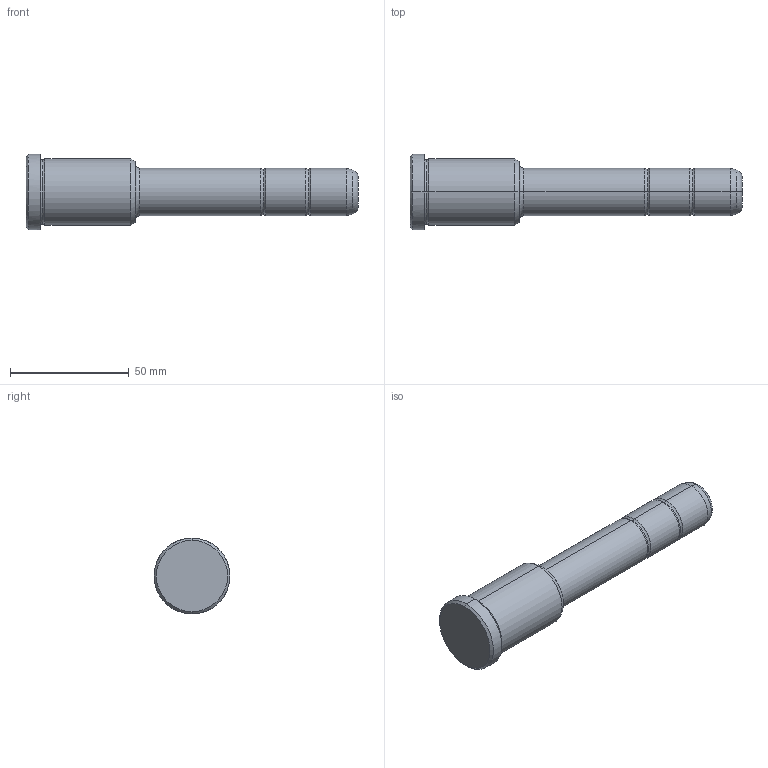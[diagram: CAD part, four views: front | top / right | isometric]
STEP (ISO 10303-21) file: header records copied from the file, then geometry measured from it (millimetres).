
FILE_DESCRIPTION(('CATIA V5 STEP Exchange'),'2;1');
FILE_NAME('C:\Users\Utente\Desktop\IO LAVORO\3D X SITO CF\X SITO\PLASTICA\351\351-20X46X140.stp','2021-08-27T12:54:18+00:00',('none'),('none'),'CATIA Version 5 Release 20 GA (IN-10)','CATIA V5 STEP AP203','none');
FILE_SCHEMA(('CONFIG_CONTROL_DESIGN'));
Length unit declared in the file: millimetre
Products named in the file (1): 351-20X46X140
Bounding box: 140 x 32 x 32 mm (x, y, z)
Volume: 58494.3 mm3; surface area: 11370.6 mm2
Topology: 1 solids, 1 shells, 36 faces, 102 edges, 70 vertices
Faces by surface type: torus 16, cylinder 10, cone 6, plane 4
Entity records: 1292 total; most frequent: CARTESIAN_POINT 321, ORIENTED_EDGE 204, DIRECTION 166, AXIS2_PLACEMENT_3D 115, EDGE_CURVE 102, CIRCLE 78, VERTEX_POINT 70, EDGE_LOOP 38
